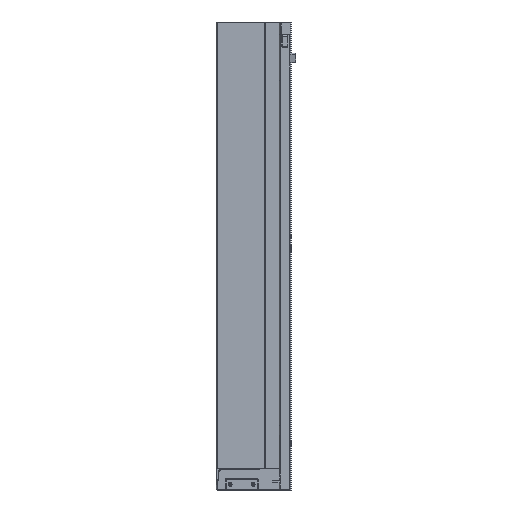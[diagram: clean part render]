
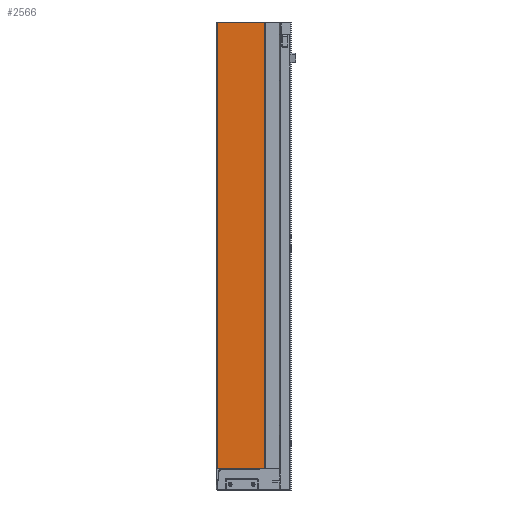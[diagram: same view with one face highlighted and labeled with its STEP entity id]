
A CAD part, left-side view. The second image highlights one B-rep face of the part: STEP entity #2566.
In plain terms, the highlighted planar face has unit normal (-1, 0, 0).
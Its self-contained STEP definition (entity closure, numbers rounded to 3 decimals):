
#339 = VERTEX_POINT ( 'NONE', #8599 ) ;
#430 = DIRECTION ( 'NONE',  ( 0., 1., 0. ) ) ;
#514 = EDGE_CURVE ( 'NONE', #8157, #9830, #6715, .T. ) ;
#1703 = DIRECTION ( 'NONE',  ( 0., 0., 1. ) ) ;
#1906 = ORIENTED_EDGE ( 'NONE', *, *, #7960, .T. ) ;
#1991 = VERTEX_POINT ( 'NONE', #7037 ) ;
#2248 = ORIENTED_EDGE ( 'NONE', *, *, #9751, .F. ) ;
#2483 = LINE ( 'NONE', #12386, #12481 ) ;
#2566 = ADVANCED_FACE ( 'NONE', ( #10476 ), #7178, .T. ) ;
#2581 = ORIENTED_EDGE ( 'NONE', *, *, #514, .T. ) ;
#2617 = EDGE_CURVE ( 'NONE', #8157, #1991, #5291, .T. ) ;
#2916 = CARTESIAN_POINT ( 'NONE',  ( 0.5, 0., 0. ) ) ;
#2981 = EDGE_LOOP ( 'NONE', ( #2581, #1906, #2248, #6840 ) ) ;
#4091 = VECTOR ( 'NONE', #1703, 1000. ) ;
#5197 = DIRECTION ( 'NONE',  ( 0., 1., 0. ) ) ;
#5291 = LINE ( 'NONE', #6274, #12377 ) ;
#6097 = CARTESIAN_POINT ( 'NONE',  ( 0.5, 0., -562.455 ) ) ;
#6274 = CARTESIAN_POINT ( 'NONE',  ( 0.5, 0., -523.5 ) ) ;
#6527 = VECTOR ( 'NONE', #430, 1000. ) ;
#6592 = CARTESIAN_POINT ( 'NONE',  ( 0.5, 0., -562.455 ) ) ;
#6715 = LINE ( 'NONE', #6097, #4091 ) ;
#6840 = ORIENTED_EDGE ( 'NONE', *, *, #2617, .F. ) ;
#7037 = CARTESIAN_POINT ( 'NONE',  ( 0.5, 55.8, -523.5 ) ) ;
#7088 = DIRECTION ( 'NONE',  ( -1., 0., 0. ) ) ;
#7164 = DIRECTION ( 'NONE',  ( 0., 0., 1. ) ) ;
#7178 = PLANE ( 'NONE',  #11015 ) ;
#7960 = EDGE_CURVE ( 'NONE', #9830, #339, #9431, .T. ) ;
#8157 = VERTEX_POINT ( 'NONE', #9681 ) ;
#8599 = CARTESIAN_POINT ( 'NONE',  ( 0.5, 55.8, 0. ) ) ;
#9312 = CARTESIAN_POINT ( 'NONE',  ( 0.5, 0., 0. ) ) ;
#9431 = LINE ( 'NONE', #9312, #6527 ) ;
#9681 = CARTESIAN_POINT ( 'NONE',  ( 0.5, 0., -523.5 ) ) ;
#9751 = EDGE_CURVE ( 'NONE', #1991, #339, #2483, .T. ) ;
#9830 = VERTEX_POINT ( 'NONE', #2916 ) ;
#10476 = FACE_OUTER_BOUND ( 'NONE', #2981, .T. ) ;
#11015 = AXIS2_PLACEMENT_3D ( 'NONE', #6592, #7088, #7164 ) ;
#12377 = VECTOR ( 'NONE', #5197, 1000. ) ;
#12386 = CARTESIAN_POINT ( 'NONE',  ( 0.5, 55.8, -562.455 ) ) ;
#12423 = DIRECTION ( 'NONE',  ( 0., 0., 1. ) ) ;
#12481 = VECTOR ( 'NONE', #12423, 1000. ) ;
